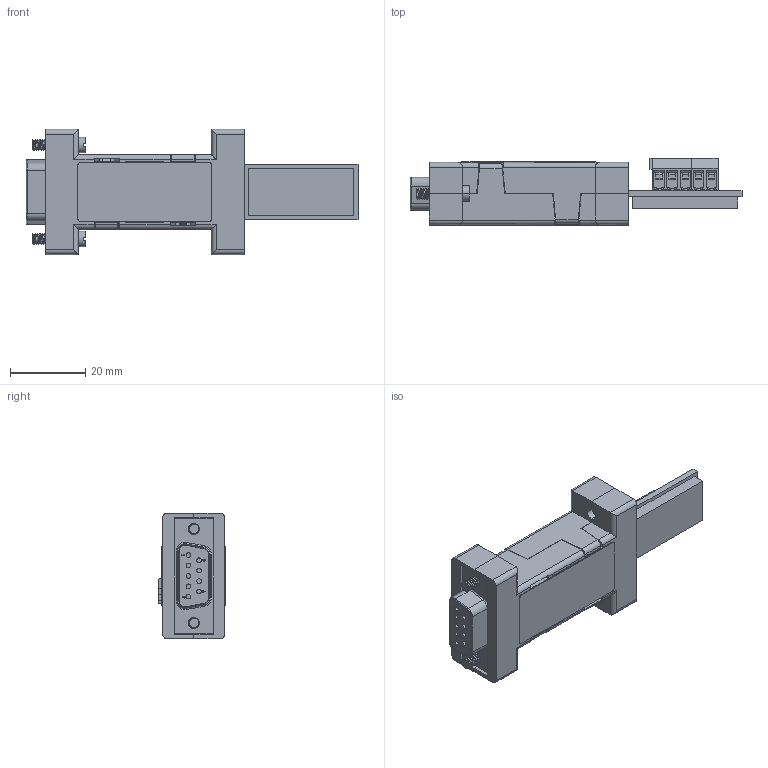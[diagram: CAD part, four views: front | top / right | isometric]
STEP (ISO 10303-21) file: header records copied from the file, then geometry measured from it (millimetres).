
FILE_DESCRIPTION (( 'STEP AP214' ), '1' );
FILE_NAME ('485SD9TB.STEP', '2018-05-21T19:04:29', ( '' ), ( '' ), 'SwSTEP 2.0', 'SolidWorks 2016', '' );
FILE_SCHEMA (( 'AUTOMOTIVE_DESIGN' ));
Length unit declared in the file: inch
Products named in the file (12): 485SD9TB; 250-10546-00; 9667; 3291 3-pos Terminal Block; 3290 2-pos Terminal Block; 2340 Retainer; 6883 Foam Tape; 4007 PCB; 1267 DB9 Female; 957-009-0Y0R0Y1; 957 Jackscrew; 9522 Hood
Assembly tree (13 placements, depth 3):
  485SD9TB
    957-009-0Y0R0Y1
      9522 Hood  x2
      957 Jackscrew  x2
    1267 DB9 Female
    4007 PCB
    6883 Foam Tape
    2340 Retainer
    3290 2-pos Terminal Block
    3291 3-pos Terminal Block
    9667
    250-10546-00
Bounding box: 88.21 x 18.03 x 33.3 mm (x, y, z)
Volume: 14120.2 mm3; surface area: 21304.8 mm2
Topology: 12 solids, 12 shells, 1227 faces, 3422 edges, 2240 vertices
Faces by surface type: plane 732, cylinder 344, cone 70, bspline 61, torus 20
Entity records: 42534 total; most frequent: CARTESIAN_POINT 11070, ORIENTED_EDGE 5886, DIRECTION 5086, EDGE_CURVE 2943, VERTEX_POINT 1927, VECTOR 1754, LINE 1754, AXIS2_PLACEMENT_3D 1666
